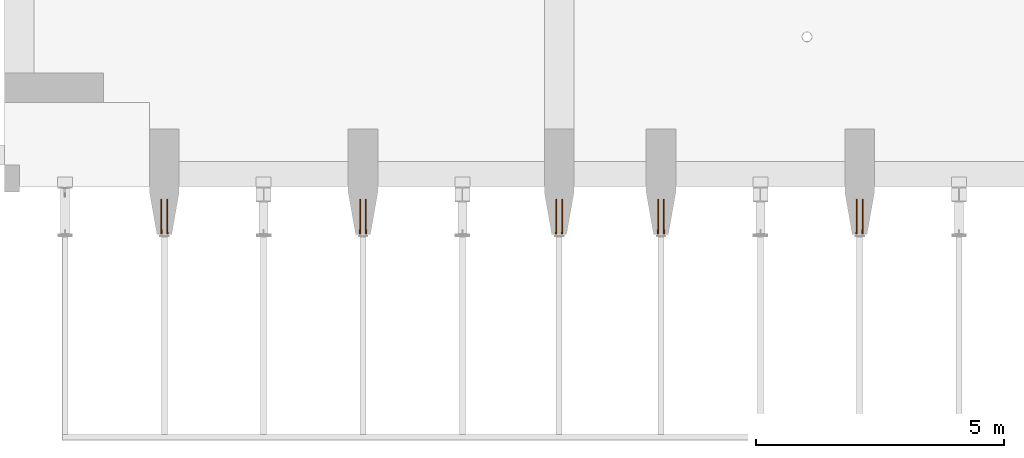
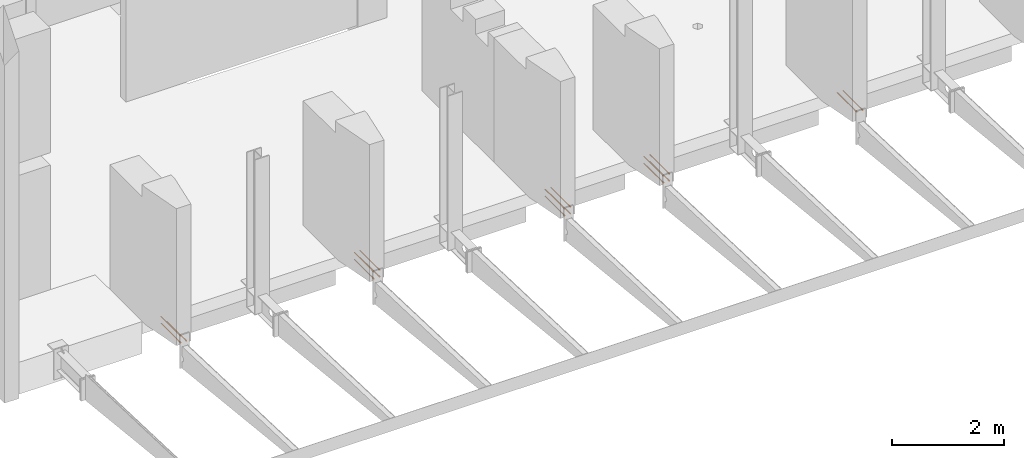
# One storey, part 26 of 27: 17 proxies.
"""IFC2X3 building model written with IfcOpenShell, lengths in millimetres."""

from ifc_helpers import new_model, entity, si_unit, converted_unit, derived_unit, direction, frame, frame_2d, origin, place, context, subcontext, project, spatial, circle, extrude, faceted_brep, source, transform, mapped, type_object, type_shapes, element, save


model = new_model("IFC2X3")

# Units and contexts
model_context = context("Model", 3, precision=0.01, world=origin(), true_north=direction((6.12303176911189e-17, 1.0)))
body_context = subcontext(model_context, "Body", "Model", "MODEL_VIEW")
ifc_project = project(units=[si_unit("LENGTHUNIT", "METRE", prefix="MILLI"), si_unit("AREAUNIT", "SQUARE_METRE"), si_unit("VOLUMEUNIT", "CUBIC_METRE"), converted_unit("PLANEANGLEUNIT", "DEGREE", entity("IfcRatioMeasure", 0.0174532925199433), si_unit("PLANEANGLEUNIT", "RADIAN"), dimensions=[0, 0, 0, 0, 0, 0, 0]), si_unit("MASSUNIT", "GRAM", prefix="KILO"), derived_unit("MASSDENSITYUNIT", [(si_unit("MASSUNIT", "GRAM", prefix="KILO"), 1), (si_unit("LENGTHUNIT", "METRE"), -3)]), si_unit("TIMEUNIT", "SECOND"), si_unit("FREQUENCYUNIT", "HERTZ"), si_unit("THERMODYNAMICTEMPERATUREUNIT", "DEGREE_CELSIUS"), derived_unit("THERMALTRANSMITTANCEUNIT", [(si_unit("MASSUNIT", "GRAM", prefix="KILO"), 1), (si_unit("THERMODYNAMICTEMPERATUREUNIT", "KELVIN"), -1), (si_unit("TIMEUNIT", "SECOND"), -3)]), derived_unit("VOLUMETRICFLOWRATEUNIT", [(si_unit("LENGTHUNIT", "METRE"), 3), (si_unit("TIMEUNIT", "SECOND"), -1)]), si_unit("ELECTRICCURRENTUNIT", "AMPERE"), si_unit("ELECTRICVOLTAGEUNIT", "VOLT"), si_unit("POWERUNIT", "WATT"), si_unit("FORCEUNIT", "NEWTON", prefix="KILO"), si_unit("ILLUMINANCEUNIT", "LUX"), si_unit("LUMINOUSFLUXUNIT", "LUMEN"), si_unit("LUMINOUSINTENSITYUNIT", "CANDELA"), derived_unit("USERDEFINED", [(si_unit("MASSUNIT", "GRAM", prefix="KILO"), -1), (si_unit("LENGTHUNIT", "METRE"), -2), (si_unit("TIMEUNIT", "SECOND"), 3), (si_unit("LUMINOUSFLUXUNIT", "LUMEN"), 1)]), derived_unit("LINEARVELOCITYUNIT", [(si_unit("LENGTHUNIT", "METRE"), 1), (si_unit("TIMEUNIT", "SECOND"), -1)]), si_unit("PRESSUREUNIT", "PASCAL"), derived_unit("USERDEFINED", [(si_unit("LENGTHUNIT", "METRE"), -2), (si_unit("MASSUNIT", "GRAM", prefix="KILO"), 1), (si_unit("TIMEUNIT", "SECOND"), -2)])], contexts=[model_context])

# Site, building, storey
site_placement = place(None, origin())
site = spatial("IfcSite", under=ifc_project, at=site_placement, Name="Default", CompositionType="ELEMENT")
building_placement = place(site_placement, origin())
building = spatial("IfcBuilding", under=site, at=building_placement, Name="niet gebruiken", CompositionType="ELEMENT")
storey_placement = place(building_placement, frame((0.0, 0.0, 6000.0)))
storey = spatial("IfcBuildingStorey", under=building, at=storey_placement, Name="01 eerste verdieping", CompositionType="ELEMENT", Elevation=6000.0)

# Proxies
building_element_proxy_type_1 = type_object("IfcBuildingElementProxyType", Name="Ø20/M24x705", PredefinedType="NOTDEFINED")
shared_shape_1 = source(origin(), body_context, "Body", "SolidModel", [
    extrude(circle(Radius=10.0, at=frame_2d((0.0, -1.61554457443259e-14), x_axis=(1.0, 0.0))), frame((34.9769027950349, 0.0, -705.0)), (0.0, 0.0, 1.0), 615.0),
    extrude(circle(Radius=10.0, at=frame_2d((0.0, -1.61554457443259e-14), x_axis=(1.0, 0.0))), frame((34.9769027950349, 0.0, -705.0)), (0.0, 0.0, 1.0), 615.0),
    faceted_brep([(29.3200485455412, 13.6568542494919, 0.0), (32.1484756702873, 14.8284271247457, 0.0), (34.9769027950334, 16.0, 0.0), (34.9769027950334, 16.0, -38.0), (32.1484756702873, 14.8284271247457, -38.0), (29.3200485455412, 13.6568542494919, -38.0), (26.4916214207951, 12.4852813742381, -38.0), (23.663194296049, 11.3137084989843, -38.0), (23.663194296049, 11.3137084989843, 0.0), (26.4916214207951, 12.4852813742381, 0.0), (49.805329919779, 2.82842712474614, 0.0), (50.9769027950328, 0.0, 0.0), (50.9769027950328, 0.0, -38.0), (50.0199937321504, 2.31018283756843, -38.0), (49.7680552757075, 2.91841607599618, -38.0), (48.6337570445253, 5.65685424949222, -38.0), (48.5592077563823, 5.83683215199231, -38.0), (47.4621841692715, 8.48528137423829, -38.0), (46.2906112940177, 11.3137084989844, -38.0), (46.2906112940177, 11.3137084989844, 0.0), (47.4621841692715, 8.48528137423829, 0.0), (48.6337570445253, 5.65685424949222, 0.0), (21.3200485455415, 5.65685424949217, 0.0), (22.4916214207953, 8.48528137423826, 0.0), (22.4916214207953, 8.48528137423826, -38.0), (22.2769576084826, 7.96703708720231, -38.0), (21.3200485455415, 5.65685424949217, -38.0), (20.8907209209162, 4.62036567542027, -38.0), (20.1484756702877, 2.82842712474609, -38.0), (18.976902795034, 0.0, -38.0), (18.976902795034, 0.0, 0.0), (20.1484756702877, 2.82842712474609, 0.0), (40.6337570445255, 13.6568542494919, 0.0), (43.4621841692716, 12.4852813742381, 0.0), (43.4621841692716, 12.4852813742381, -38.0), (40.6337570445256, 13.6568542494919, -38.0), (37.8053299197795, 14.8284271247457, -38.0), (37.8053299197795, 14.8284271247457, 0.0), (49.063084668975, -4.62036567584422, 0.0), (47.6768479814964, -7.96703708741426, 0.0), (46.2906112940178, -11.3137084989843, 0.0), (46.2906112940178, -11.3137084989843, -38.0), (47.4621841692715, -8.48528137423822, -38.0), (48.6337570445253, -5.65685424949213, -38.0), (49.8053299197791, -2.82842712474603, -38.0), (29.3200485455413, -13.6568542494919, 0.0), (26.4916214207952, -12.4852813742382, 0.0), (23.6631942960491, -11.3137084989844, 0.0), (23.6631942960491, -11.3137084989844, -38.0), (26.4916214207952, -12.4852813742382, -38.0), (29.3200485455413, -13.6568542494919, -38.0), (32.1484756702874, -14.8284271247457, -38.0), (34.9769027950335, -16.0, -38.0), (34.9769027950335, -16.0, 0.0), (32.1484756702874, -14.8284271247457, 0.0), (37.8053299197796, -14.8284271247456, -38.0), (40.6337570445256, -13.6568542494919, -38.0), (43.4621841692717, -12.4852813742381, -38.0), (43.4621841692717, -12.4852813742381, 0.0), (40.6337570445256, -13.6568542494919, 0.0), (37.8053299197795, -14.8284271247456, 0.0), (22.4916214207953, -8.48528137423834, 0.0), (21.3200485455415, -5.65685424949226, 0.0), (20.1484756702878, -2.82842712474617, 0.0), (19.9338118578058, -2.31018283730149, -38.0), (20.1857498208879, -2.91841488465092, -38.0), (21.3200485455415, -5.65685424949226, -38.0), (22.4916214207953, -8.48528137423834, -38.0), (25.7845146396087, 9.19238815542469, -52.0), (24.8628969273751, 6.96740617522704, -52.0), (23.9412792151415, 4.7424241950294, -52.0), (22.9590910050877, 2.3712120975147, -52.0), (21.976902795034, 0.0, -52.0), (44.1692909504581, 9.19238815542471, -52.0), (47.9769027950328, 0.0, -52.0), (46.994714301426, 2.37121278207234, -52.0), (46.0730968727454, 4.59619407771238, -52.0), (45.1211939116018, 6.89429111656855, -52.0), (34.9769027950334, 13.0, -52.0), (32.6788057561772, 12.0480970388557, -52.0), (30.380708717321, 11.096194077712, -52.0), (28.0826116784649, 10.1442911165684, -52.0), (37.2749998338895, 12.0480970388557, -52.0), (41.8711939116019, 10.1442911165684, -52.0), (39.5730968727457, 11.0961940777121, -52.0), (44.1692909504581, -9.19238815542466, -52.0), (45.0909086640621, -6.96740617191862, -52.0), (45.3722781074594, -6.28812024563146, -52.0), (46.0125263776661, -4.74242418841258, -52.0), (46.5752652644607, -3.38385233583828, -52.0), (46.9947145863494, -2.37121209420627, -52.0), (28.0826116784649, -10.1442911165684, -52.0), (30.3807087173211, -11.0961940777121, -52.0), (32.6788057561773, -12.0480970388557, -52.0), (34.9769027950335, -13.0, -52.0), (25.7845146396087, -9.19238815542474, -52.0), (37.2749998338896, -12.0480970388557, -52.0), (39.5730968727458, -11.096194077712, -52.0), (41.871193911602, -10.1442911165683, -52.0), (22.9288057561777, -2.29809703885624, -52.0), (23.8807087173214, -4.59619407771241, -52.0), (24.8326116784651, -6.89429111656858, -52.0), (32.6788057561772, 12.0480970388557, -90.0), (30.380708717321, 11.096194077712, -90.0), (28.0826116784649, 10.1442911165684, -90.0), (25.7845146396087, 9.19238815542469, -90.0), (34.9769027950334, 13.0, -90.0), (47.9769027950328, 0.0, -90.0), (47.2760840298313, 1.691926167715, -90.0), (46.0730968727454, 4.59619407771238, -90.0), (45.1211939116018, 6.89429111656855, -90.0), (44.1692909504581, 9.19238815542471, -90.0), (23.3785403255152, 3.38385233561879, -90.0), (21.976902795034, 0.0, -90.0), (24.5815274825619, 6.28812024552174, -90.0), (41.8711939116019, 10.1442911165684, -90.0), (39.5730968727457, 11.0961940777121, -90.0), (37.2749998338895, 12.0480970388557, -90.0), (46.0730968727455, -4.5961940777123, -90.0), (47.0249998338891, -2.29809703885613, -90.0), (44.1692909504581, -9.19238815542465, -90.0), (45.1211939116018, -6.89429111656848, -90.0), (25.7845146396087, -9.19238815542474, -90.0), (28.0826116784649, -10.1442911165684, -90.0), (30.3807087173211, -11.0961940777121, -90.0), (32.6788057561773, -12.0480970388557, -90.0), (34.9769027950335, -13.0, -90.0), (37.2749998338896, -12.0480970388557, -90.0), (39.5730968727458, -11.096194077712, -90.0), (41.871193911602, -10.1442911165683, -90.0), (22.6777215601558, -1.6919261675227, -90.0), (23.8807087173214, -4.59619407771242, -90.0), (24.8326116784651, -6.89429111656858, -90.0), (34.9769027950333, 0.0, -90.0), (34.9769027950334, 0.0, -38.0), (47.9769027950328, 0.0, -38.0), (47.2760840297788, 1.69192616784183, -38.0), (46.0730968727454, 4.59619407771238, -38.0), (45.1211939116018, 6.89429111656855, -38.0), (44.1692909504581, 9.19238815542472, -38.0), (41.8711939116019, 10.1442911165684, -38.0), (39.5730968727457, 11.0961940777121, -38.0), (37.2749998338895, 12.0480970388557, -38.0), (34.9769027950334, 13.0, -38.0), (32.6788057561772, 12.0480970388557, -38.0), (30.380708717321, 11.096194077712, -38.0), (28.0826116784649, 10.1442911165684, -38.0), (25.7845146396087, 9.19238815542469, -38.0), (24.5815274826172, 6.28812024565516, -38.0), (23.3785403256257, 3.38385233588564, -38.0), (21.976902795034, 0.0, -38.0), (22.6777215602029, -1.69192616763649, -38.0), (47.0249998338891, -2.29809703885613, -38.0), (46.0730968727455, -4.59619407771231, -38.0), (45.1211939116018, -6.89429111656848, -38.0), (44.1692909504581, -9.19238815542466, -38.0), (41.871193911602, -10.1442911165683, -38.0), (39.5730968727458, -11.096194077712, -38.0), (37.2749998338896, -12.0480970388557, -38.0), (34.9769027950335, -13.0, -38.0), (23.8807087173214, -4.59619407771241, -38.0), (24.8326116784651, -6.89429111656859, -38.0), (25.7845146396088, -9.19238815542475, -38.0), (28.0826116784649, -10.1442911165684, -38.0), (30.3807087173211, -11.0961940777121, -38.0), (32.6788057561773, -12.0480970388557, -38.0), (32.6788057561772, 12.0480970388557, 0.0), (30.380708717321, 11.096194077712, 0.0), (28.0826116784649, 10.1442911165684, 0.0), (25.7845146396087, 9.19238815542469, 0.0), (34.9769027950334, 13.0, 0.0), (47.9769027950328, 0.0, 0.0), (47.0249998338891, 2.29809703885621, 0.0), (46.0730968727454, 4.59619407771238, 0.0), (45.1211939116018, 6.89429111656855, 0.0), (44.1692909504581, 9.19238815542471, 0.0), (24.832611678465, 6.89429111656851, 0.0), (23.8807087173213, 4.59619407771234, 0.0), (22.9288057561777, 2.29809703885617, 0.0), (21.976902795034, 0.0, 0.0), (37.2749998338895, 12.0480970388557, 0.0), (41.8711939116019, 10.1442911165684, 0.0), (39.5730968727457, 11.0961940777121, 0.0), (44.1692909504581, -9.19238815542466, 0.0), (45.3722781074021, -6.28812024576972, 0.0), (46.5752652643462, -3.38385233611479, 0.0), (32.6788057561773, -12.0480970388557, 0.0), (34.9769027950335, -13.0, 0.0), (25.7845146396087, -9.19238815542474, 0.0), (28.0826116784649, -10.1442911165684, 0.0), (30.3807087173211, -11.0961940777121, 0.0), (37.2749998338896, -12.0480970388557, 0.0), (39.5730968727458, -11.096194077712, 0.0), (41.871193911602, -10.1442911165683, 0.0), (22.9288057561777, -2.29809703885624, 0.0), (23.8807087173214, -4.59619407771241, 0.0), (24.8326116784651, -6.89429111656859, 0.0)], [[[0, 1, 2, 3, 4, 5, 6, 7, 8, 9]], [[10, 11, 12, 13, 14, 15, 16, 17, 18, 19, 20, 21]], [[22, 23, 8, 7, 24, 25, 26, 27, 28, 29, 30, 31]], [[32, 33, 19, 18, 34, 35, 36, 3, 2, 37]], [[38, 39, 40, 41, 42, 43, 44, 12, 11]], [[45, 46, 47, 48, 49, 50, 51, 52, 53, 54]], [[53, 52, 55, 56, 57, 41, 40, 58, 59, 60]], [[48, 47, 61, 62, 63, 30, 29, 64, 65, 66, 67]], [[7, 68, 69, 70, 71, 72, 29, 28, 27, 26, 25, 24]], [[73, 18, 17, 16, 15, 14, 13, 12, 74, 75, 76, 77]], [[4, 3, 78, 79, 80, 81, 68, 7, 6, 5]], [[82, 78, 3, 36, 35, 34, 18, 73, 83, 84]], [[41, 85, 86, 87, 88, 89, 90, 74, 12, 44, 43, 42]], [[91, 92, 93, 94, 52, 51, 50, 49, 48, 95]], [[55, 52, 94, 96, 97, 98, 85, 41, 57, 56]], [[99, 100, 101, 95, 48, 67, 66, 65, 64, 29, 72]], [[102, 103, 104, 105, 68, 81, 80, 79, 78, 106]], [[75, 74, 107, 108, 109, 110, 111, 73, 77, 76]], [[112, 113, 72, 71, 70, 69, 68, 105, 114]], [[84, 83, 73, 111, 115, 116, 117, 106, 78, 82]], [[118, 119, 107, 74, 90, 89, 88, 87, 86, 85, 120, 121]], [[92, 91, 95, 122, 123, 124, 125, 126, 94, 93]], [[94, 126, 127, 128, 129, 120, 85, 98, 97, 96]], [[122, 95, 101, 100, 99, 72, 113, 130, 131, 132]], [[133, 111, 110]], [[133, 110, 109]], [[133, 109, 108]], [[133, 108, 107]], [[133, 107, 119]], [[133, 115, 111]], [[133, 116, 115]], [[133, 117, 116]], [[133, 106, 117]], [[133, 102, 106]], [[133, 103, 102]], [[133, 104, 103]], [[133, 105, 104]], [[133, 114, 105]], [[133, 112, 114]], [[133, 113, 112]], [[133, 119, 118]], [[133, 118, 121]], [[133, 121, 120]], [[133, 120, 129]], [[133, 129, 128]], [[133, 128, 127]], [[133, 127, 126]], [[133, 126, 125]], [[133, 130, 113]], [[133, 131, 130]], [[133, 132, 131]], [[133, 122, 132]], [[133, 125, 124]], [[133, 124, 123]], [[133, 123, 122]], [[134, 135, 136]], [[134, 136, 137]], [[134, 137, 138]], [[134, 138, 139]], [[134, 139, 140]], [[134, 140, 141]], [[134, 141, 142]], [[134, 142, 143]], [[134, 143, 144]], [[134, 144, 145]], [[134, 145, 146]], [[134, 146, 147]], [[134, 147, 148]], [[134, 148, 149]], [[134, 149, 150]], [[134, 150, 151]], [[134, 152, 135]], [[134, 153, 152]], [[134, 154, 153]], [[134, 155, 154]], [[134, 156, 155]], [[134, 157, 156]], [[134, 158, 157]], [[134, 159, 158]], [[134, 151, 160]], [[134, 160, 161]], [[134, 161, 162]], [[134, 162, 163]], [[134, 163, 164]], [[134, 164, 165]], [[134, 165, 159]], [[166, 167, 168, 169, 147, 146, 145, 144, 143, 170]], [[136, 135, 171, 172, 173, 174, 175, 139, 138, 137]], [[148, 147, 169, 176, 177, 178, 179, 150, 149]], [[180, 170, 143, 142, 141, 140, 139, 175, 181, 182]], [[153, 154, 155, 183, 184, 185, 171, 135, 152]], [[186, 187, 159, 165, 164, 163, 162, 188, 189, 190]], [[158, 159, 187, 191, 192, 193, 183, 155, 156, 157]], [[161, 160, 151, 150, 179, 194, 195, 196, 188, 162]], [[171, 11, 10]], [[171, 10, 21]], [[171, 21, 20]], [[171, 20, 19]], [[19, 172, 171]], [[171, 38, 11]], [[171, 39, 38]], [[171, 40, 39]], [[40, 171, 185]], [[40, 185, 184]], [[40, 184, 183]], [[183, 58, 40]], [[183, 59, 58]], [[183, 60, 59]], [[183, 53, 60]], [[53, 183, 193]], [[53, 193, 192]], [[53, 192, 191]], [[53, 191, 187]], [[53, 187, 186]], [[53, 186, 190]], [[53, 190, 189]], [[53, 189, 188]], [[188, 54, 53]], [[188, 45, 54]], [[188, 46, 45]], [[188, 47, 46]], [[47, 188, 196]], [[47, 196, 195]], [[47, 195, 194]], [[47, 194, 179]], [[179, 61, 47]], [[179, 62, 61]], [[179, 63, 62]], [[179, 30, 63]], [[179, 31, 30]], [[179, 22, 31]], [[179, 23, 22]], [[179, 8, 23]], [[8, 179, 178]], [[8, 178, 177]], [[8, 177, 176]], [[8, 176, 169]], [[169, 9, 8]], [[169, 0, 9]], [[169, 1, 0]], [[169, 2, 1]], [[2, 169, 168]], [[2, 168, 167]], [[2, 167, 166]], [[2, 166, 170]], [[2, 170, 180]], [[2, 180, 182]], [[2, 182, 181]], [[2, 181, 175]], [[175, 19, 33]], [[19, 175, 174]], [[175, 33, 32]], [[175, 32, 37]], [[175, 37, 2]], [[19, 174, 173]], [[19, 173, 172]]]),
])
type_shapes(building_element_proxy_type_1, [shared_shape_1])
for number, where, z_axis, x_axis in (
    (1, (141775.023097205, 150.0, 95.0), (0.0, -1.0, 0.0), (1.0, 0.0, 0.0)),
    (2, (137775.023097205, 150.0, 95.0), (0.0, -1.0, 0.0), (1.0, 0.0, 0.0)),
    (3, (137775.023097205, 150.0, -55.0), (0.0, -1.0, 0.0), (1.0, 0.0, 0.0)),
    (4, (135725.023097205, 150.0, 95.0), (0.0, -1.0, 0.0), (1.0, 0.0, 0.0)),
    (5, (135725.023097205, 150.0, -55.0), (0.0, -1.0, 0.0), (1.0, 0.0, 0.0)),
    (6, (131775.023097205, 150.0, 95.0), (0.0, -1.0, 0.0), (1.0, 0.0, 0.0)),
    (7, (131775.023097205, 150.0, -55.0), (0.0, -1.0, 0.0), (1.0, 0.0, 0.0)),
    (8, (127775.023097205, 150.0, -55.0), (0.0, -1.0, 0.0), (1.0, 0.0, 0.0)),
):
    element("IfcBuildingElementProxy", number, at=place(storey_placement, frame(where, z_axis=z_axis, x_axis=x_axis)), inside=storey, type_object=building_element_proxy_type_1, Name="GM_Stekanker_DEMU_4010 GV:Ø20/M24x705", ObjectType="Ø20/M24x705", context=body_context, shape_type="MappedRepresentation", body=[
        mapped(shared_shape_1, transform((0.0, 0.0, 0.0), scale=1.0)),
    ])
building_element_proxy_type_2 = type_object("IfcBuildingElementProxyType", Name="Ø20/M24x705", PredefinedType="NOTDEFINED")
shared_shape_2 = source(origin(), body_context, "Body", "SolidModel", [
    extrude(circle(Radius=10.0, at=frame_2d((0.0, -4.50212443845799e-14), x_axis=(1.0, 0.0))), frame((34.9769027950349, 0.0, -705.0)), (0.0, 0.0, 1.0), 615.0),
    extrude(circle(Radius=10.0, at=frame_2d((0.0, -4.50212443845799e-14), x_axis=(1.0, 0.0))), frame((34.9769027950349, 0.0, -705.0)), (0.0, 0.0, 1.0), 615.0),
    faceted_brep([(26.4916214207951, -12.4852813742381, 0.0), (23.663194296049, -11.3137084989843, 0.0), (23.663194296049, -11.3137084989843, -38.0), (26.4916214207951, -12.4852813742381, -38.0), (29.3200485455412, -13.6568542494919, -38.0), (32.1484756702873, -14.8284271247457, -38.0), (34.9769027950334, -16.0, -38.0), (34.9769027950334, -16.0, 0.0), (32.1484756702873, -14.8284271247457, 0.0), (29.3200485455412, -13.6568542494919, 0.0), (50.0199937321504, -2.31018283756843, -38.0), (50.9769027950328, 0.0, -38.0), (50.9769027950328, 0.0, 0.0), (49.805329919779, -2.82842712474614, 0.0), (48.6337570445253, -5.65685424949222, 0.0), (47.4621841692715, -8.48528137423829, 0.0), (46.2906112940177, -11.3137084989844, 0.0), (46.2906112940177, -11.3137084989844, -38.0), (47.4621841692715, -8.48528137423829, -38.0), (48.5592077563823, -5.83683215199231, -38.0), (48.6337570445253, -5.65685424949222, -38.0), (49.7680552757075, -2.91841607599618, -38.0), (21.3200485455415, -5.65685424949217, 0.0), (20.1484756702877, -2.82842712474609, 0.0), (18.976902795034, 0.0, 0.0), (18.976902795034, 0.0, -38.0), (20.1484756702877, -2.82842712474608, -38.0), (20.8907209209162, -4.62036567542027, -38.0), (21.3200485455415, -5.65685424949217, -38.0), (22.2769576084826, -7.9670370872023, -38.0), (22.4916214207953, -8.48528137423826, -38.0), (22.4916214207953, -8.48528137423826, 0.0), (37.8053299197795, -14.8284271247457, 0.0), (37.8053299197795, -14.8284271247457, -38.0), (40.6337570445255, -13.6568542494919, -38.0), (43.4621841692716, -12.4852813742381, -38.0), (43.4621841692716, -12.4852813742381, 0.0), (40.6337570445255, -13.6568542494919, 0.0), (48.6337570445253, 5.65685424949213, -38.0), (47.4621841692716, 8.48528137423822, -38.0), (46.2906112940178, 11.3137084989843, -38.0), (46.2906112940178, 11.3137084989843, 0.0), (47.6768479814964, 7.96703708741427, 0.0), (49.063084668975, 4.62036567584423, 0.0), (49.8053299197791, 2.82842712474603, -38.0), (32.1484756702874, 14.8284271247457, 0.0), (34.9769027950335, 16.0, 0.0), (34.9769027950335, 16.0, -38.0), (32.1484756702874, 14.8284271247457, -38.0), (29.3200485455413, 13.6568542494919, -38.0), (26.4916214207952, 12.4852813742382, -38.0), (23.6631942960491, 11.3137084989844, -38.0), (23.6631942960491, 11.3137084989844, 0.0), (26.4916214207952, 12.4852813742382, 0.0), (29.3200485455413, 13.6568542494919, 0.0), (37.8053299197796, 14.8284271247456, -38.0), (37.8053299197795, 14.8284271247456, 0.0), (40.6337570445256, 13.6568542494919, 0.0), (43.4621841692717, 12.4852813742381, 0.0), (43.4621841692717, 12.4852813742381, -38.0), (40.6337570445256, 13.6568542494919, -38.0), (22.4916214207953, 8.48528137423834, -38.0), (21.3200485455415, 5.65685424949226, -38.0), (20.1857498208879, 2.91841488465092, -38.0), (19.9338118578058, 2.31018283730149, -38.0), (20.1484756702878, 2.82842712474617, 0.0), (21.3200485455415, 5.65685424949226, 0.0), (22.4916214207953, 8.48528137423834, 0.0), (24.8628969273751, -6.96740617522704, -52.0), (25.7845146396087, -9.19238815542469, -52.0), (21.976902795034, 0.0, -52.0), (22.9590910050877, -2.3712120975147, -52.0), (23.9412792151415, -4.7424241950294, -52.0), (45.1211939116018, -6.89429111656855, -52.0), (46.0730968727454, -4.59619407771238, -52.0), (46.994714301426, -2.37121278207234, -52.0), (47.9769027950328, 0.0, -52.0), (44.1692909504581, -9.19238815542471, -52.0), (34.9769027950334, -13.0, -52.0), (28.0826116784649, -10.1442911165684, -52.0), (30.380708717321, -11.096194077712, -52.0), (32.6788057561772, -12.0480970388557, -52.0), (37.2749998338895, -12.0480970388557, -52.0), (39.5730968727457, -11.0961940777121, -52.0), (41.8711939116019, -10.1442911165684, -52.0), (45.0909086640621, 6.96740617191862, -52.0), (44.1692909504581, 9.19238815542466, -52.0), (46.9947145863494, 2.37121209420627, -52.0), (46.5752652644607, 3.38385233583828, -52.0), (46.0125263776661, 4.74242418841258, -52.0), (45.3722781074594, 6.28812024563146, -52.0), (34.9769027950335, 13.0, -52.0), (32.6788057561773, 12.0480970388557, -52.0), (30.3807087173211, 11.0961940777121, -52.0), (28.0826116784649, 10.1442911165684, -52.0), (25.7845146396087, 9.19238815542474, -52.0), (41.871193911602, 10.1442911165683, -52.0), (39.5730968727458, 11.096194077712, -52.0), (37.2749998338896, 12.0480970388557, -52.0), (22.9288057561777, 2.29809703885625, -52.0), (24.8326116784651, 6.89429111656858, -52.0), (23.8807087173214, 4.59619407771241, -52.0), (25.7845146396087, -9.19238815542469, -90.0), (28.0826116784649, -10.1442911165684, -90.0), (30.380708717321, -11.096194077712, -90.0), (32.6788057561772, -12.0480970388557, -90.0), (34.9769027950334, -13.0, -90.0), (47.2760840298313, -1.691926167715, -90.0), (47.9769027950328, 0.0, -90.0), (44.1692909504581, -9.19238815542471, -90.0), (45.1211939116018, -6.89429111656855, -90.0), (46.0730968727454, -4.59619407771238, -90.0), (24.5815274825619, -6.28812024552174, -90.0), (21.976902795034, 0.0, -90.0), (23.3785403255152, -3.38385233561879, -90.0), (37.2749998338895, -12.0480970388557, -90.0), (39.5730968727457, -11.0961940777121, -90.0), (41.8711939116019, -10.1442911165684, -90.0), (46.0730968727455, 4.5961940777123, -90.0), (45.1211939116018, 6.89429111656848, -90.0), (44.1692909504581, 9.19238815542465, -90.0), (47.0249998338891, 2.29809703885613, -90.0), (34.9769027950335, 13.0, -90.0), (32.6788057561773, 12.0480970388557, -90.0), (30.3807087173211, 11.0961940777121, -90.0), (28.0826116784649, 10.1442911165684, -90.0), (25.7845146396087, 9.19238815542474, -90.0), (37.2749998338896, 12.0480970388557, -90.0), (41.871193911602, 10.1442911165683, -90.0), (39.5730968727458, 11.096194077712, -90.0), (24.8326116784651, 6.89429111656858, -90.0), (23.8807087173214, 4.59619407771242, -90.0), (22.6777215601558, 1.6919261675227, -90.0), (34.9769027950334, 0.0, -90.0), (34.9769027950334, 0.0, -38.0), (44.1692909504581, -9.19238815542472, -38.0), (45.1211939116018, -6.89429111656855, -38.0), (46.0730968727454, -4.59619407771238, -38.0), (47.2760840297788, -1.69192616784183, -38.0), (47.9769027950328, 0.0, -38.0), (47.0249998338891, 2.29809703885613, -38.0), (41.8711939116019, -10.1442911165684, -38.0), (39.5730968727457, -11.0961940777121, -38.0), (37.2749998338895, -12.0480970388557, -38.0), (34.9769027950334, -13.0, -38.0), (32.6788057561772, -12.0480970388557, -38.0), (30.380708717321, -11.096194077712, -38.0), (28.0826116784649, -10.1442911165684, -38.0), (25.7845146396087, -9.19238815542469, -38.0), (24.5815274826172, -6.28812024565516, -38.0), (23.3785403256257, -3.38385233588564, -38.0), (21.976902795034, 0.0, -38.0), (46.0730968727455, 4.59619407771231, -38.0), (45.1211939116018, 6.89429111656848, -38.0), (44.1692909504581, 9.19238815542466, -38.0), (41.871193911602, 10.1442911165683, -38.0), (39.5730968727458, 11.096194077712, -38.0), (37.2749998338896, 12.0480970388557, -38.0), (34.9769027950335, 13.0, -38.0), (32.6788057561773, 12.0480970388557, -38.0), (22.6777215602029, 1.69192616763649, -38.0), (23.8807087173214, 4.59619407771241, -38.0), (24.8326116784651, 6.89429111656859, -38.0), (25.7845146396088, 9.19238815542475, -38.0), (30.3807087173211, 11.0961940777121, -38.0), (28.0826116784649, 10.1442911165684, -38.0), (25.7845146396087, -9.19238815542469, 0.0), (28.0826116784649, -10.1442911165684, 0.0), (30.380708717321, -11.096194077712, 0.0), (32.6788057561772, -12.0480970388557, 0.0), (34.9769027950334, -13.0, 0.0), (47.0249998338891, -2.29809703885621, 0.0), (47.9769027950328, 0.0, 0.0), (44.1692909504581, -9.19238815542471, 0.0), (45.1211939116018, -6.89429111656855, 0.0), (46.0730968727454, -4.59619407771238, 0.0), (21.976902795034, 0.0, 0.0), (22.9288057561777, -2.29809703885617, 0.0), (23.8807087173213, -4.59619407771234, 0.0), (24.832611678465, -6.89429111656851, 0.0), (39.5730968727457, -11.0961940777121, 0.0), (41.8711939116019, -10.1442911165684, 0.0), (37.2749998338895, -12.0480970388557, 0.0), (46.5752652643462, 3.38385233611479, 0.0), (45.3722781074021, 6.28812024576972, 0.0), (44.1692909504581, 9.19238815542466, 0.0), (30.3807087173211, 11.0961940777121, 0.0), (28.0826116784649, 10.1442911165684, 0.0), (25.7845146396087, 9.19238815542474, 0.0), (34.9769027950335, 13.0, 0.0), (32.6788057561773, 12.0480970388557, 0.0), (41.871193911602, 10.1442911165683, 0.0), (39.5730968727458, 11.096194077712, 0.0), (37.2749998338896, 12.0480970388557, 0.0), (24.8326116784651, 6.89429111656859, 0.0), (23.8807087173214, 4.59619407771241, 0.0), (22.9288057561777, 2.29809703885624, 0.0)], [[[0, 1, 2, 3, 4, 5, 6, 7, 8, 9]], [[10, 11, 12, 13, 14, 15, 16, 17, 18, 19, 20, 21]], [[22, 23, 24, 25, 26, 27, 28, 29, 30, 2, 1, 31]], [[32, 7, 6, 33, 34, 35, 17, 16, 36, 37]], [[38, 39, 40, 41, 42, 43, 12, 11, 44]], [[45, 46, 47, 48, 49, 50, 51, 52, 53, 54]], [[55, 47, 46, 56, 57, 58, 41, 40, 59, 60]], [[61, 62, 63, 64, 25, 24, 65, 66, 67, 52, 51]], [[68, 69, 2, 30, 29, 28, 27, 26, 25, 70, 71, 72]], [[73, 74, 75, 76, 11, 10, 21, 20, 19, 18, 17, 77]], [[78, 6, 5, 4, 3, 2, 69, 79, 80, 81]], [[33, 6, 78, 82, 83, 84, 77, 17, 35, 34]], [[85, 86, 40, 39, 38, 44, 11, 76, 87, 88, 89, 90]], [[49, 48, 47, 91, 92, 93, 94, 95, 51, 50]], [[91, 47, 55, 60, 59, 40, 86, 96, 97, 98]], [[99, 70, 25, 64, 63, 62, 61, 51, 95, 100, 101]], [[81, 80, 79, 69, 102, 103, 104, 105, 106, 78]], [[107, 108, 76, 75, 74, 73, 77, 109, 110, 111]], [[112, 102, 69, 68, 72, 71, 70, 113, 114]], [[82, 78, 106, 115, 116, 117, 109, 77, 84, 83]], [[118, 119, 120, 86, 85, 90, 89, 88, 87, 76, 108, 121]], [[92, 91, 122, 123, 124, 125, 126, 95, 94, 93]], [[127, 122, 91, 98, 97, 96, 86, 120, 128, 129]], [[130, 131, 132, 113, 70, 99, 101, 100, 95, 126]], [[133, 108, 107]], [[133, 107, 111]], [[133, 111, 110]], [[133, 110, 109]], [[133, 109, 117]], [[133, 117, 116]], [[133, 116, 115]], [[133, 115, 106]], [[133, 106, 105]], [[133, 105, 104]], [[133, 104, 103]], [[133, 103, 102]], [[133, 102, 112]], [[133, 112, 114]], [[133, 114, 113]], [[133, 113, 132]], [[133, 121, 108]], [[133, 118, 121]], [[133, 119, 118]], [[133, 120, 119]], [[133, 128, 120]], [[133, 129, 128]], [[133, 127, 129]], [[133, 122, 127]], [[133, 132, 131]], [[133, 131, 130]], [[133, 130, 126]], [[133, 126, 125]], [[133, 125, 124]], [[133, 124, 123]], [[133, 123, 122]], [[134, 135, 136]], [[134, 136, 137]], [[134, 137, 138]], [[134, 138, 139]], [[134, 139, 140]], [[134, 141, 135]], [[134, 142, 141]], [[134, 143, 142]], [[134, 144, 143]], [[134, 145, 144]], [[134, 146, 145]], [[134, 147, 146]], [[134, 148, 147]], [[134, 149, 148]], [[134, 150, 149]], [[134, 151, 150]], [[134, 140, 152]], [[134, 152, 153]], [[134, 153, 154]], [[134, 154, 155]], [[134, 155, 156]], [[134, 156, 157]], [[134, 157, 158]], [[134, 158, 159]], [[134, 160, 151]], [[134, 161, 160]], [[134, 162, 161]], [[134, 163, 162]], [[134, 159, 164]], [[134, 164, 165]], [[134, 165, 163]], [[145, 146, 147, 148, 166, 167, 168, 169, 170, 144]], [[171, 172, 139, 138, 137, 136, 135, 173, 174, 175]], [[150, 151, 176, 177, 178, 179, 166, 148, 149]], [[180, 181, 173, 135, 141, 142, 143, 144, 170, 182]], [[183, 184, 185, 154, 153, 152, 140, 139, 172]], [[186, 187, 188, 163, 165, 164, 159, 158, 189, 190]], [[189, 158, 157, 156, 155, 154, 185, 191, 192, 193]], [[163, 188, 194, 195, 196, 176, 151, 160, 161, 162]], [[172, 16, 15]], [[16, 172, 171]], [[172, 15, 14]], [[172, 14, 13]], [[172, 13, 12]], [[172, 12, 43]], [[172, 43, 42]], [[172, 42, 41]], [[41, 183, 172]], [[16, 171, 175]], [[16, 175, 174]], [[16, 174, 173]], [[173, 36, 16]], [[173, 37, 36]], [[173, 32, 37]], [[173, 7, 32]], [[7, 173, 181]], [[7, 181, 180]], [[7, 180, 182]], [[7, 182, 170]], [[7, 170, 169]], [[7, 169, 168]], [[7, 168, 167]], [[7, 167, 166]], [[166, 8, 7]], [[166, 9, 8]], [[166, 0, 9]], [[166, 1, 0]], [[1, 166, 179]], [[1, 179, 178]], [[1, 178, 177]], [[1, 177, 176]], [[176, 31, 1]], [[176, 22, 31]], [[176, 23, 22]], [[176, 24, 23]], [[176, 65, 24]], [[176, 66, 65]], [[176, 67, 66]], [[176, 52, 67]], [[52, 176, 196]], [[52, 196, 195]], [[52, 195, 194]], [[52, 194, 188]], [[188, 53, 52]], [[188, 54, 53]], [[188, 45, 54]], [[188, 46, 45]], [[46, 188, 187]], [[46, 187, 186]], [[46, 186, 190]], [[46, 190, 189]], [[46, 189, 193]], [[46, 193, 192]], [[46, 192, 191]], [[46, 191, 185]], [[185, 41, 58]], [[41, 185, 184]], [[185, 58, 57]], [[185, 57, 56]], [[185, 56, 46]], [[41, 184, 183]]]),
])
type_shapes(building_element_proxy_type_2, [shared_shape_2])
for number, where, z_axis, x_axis in (
    (9, (141724.976902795, 150.0, 95.0), (0.0, -1.0, 0.0), (-1.0, 0.0, 0.0)),
    (10, (137724.976902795, 150.0, 95.0), (0.0, -1.0, 0.0), (-1.0, 0.0, 0.0)),
    (11, (137724.976902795, 150.0, -55.0), (0.0, -1.0, 0.0), (-1.0, 0.0, 0.0)),
    (12, (135674.976902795, 150.0, 95.0), (0.0, -1.0, 0.0), (-1.0, 0.0, 0.0)),
    (13, (135674.976902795, 150.0, -55.0), (0.0, -1.0, 0.0), (-1.0, 0.0, 0.0)),
    (14, (131724.976902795, 150.0, 95.0), (0.0, -1.0, 0.0), (-1.0, 0.0, 0.0)),
    (15, (131724.976902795, 150.0, -55.0), (0.0, -1.0, 0.0), (-1.0, 0.0, 0.0)),
    (16, (127724.976902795, 150.0, 95.0), (0.0, -1.0, 0.0), (-1.0, 0.0, 0.0)),
    (17, (127724.976902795, 150.0, -55.0), (0.0, -1.0, 0.0), (-1.0, 0.0, 0.0)),
):
    element("IfcBuildingElementProxy", number, at=place(storey_placement, frame(where, z_axis=z_axis, x_axis=x_axis)), inside=storey, type_object=building_element_proxy_type_2, Name="GM_Stekanker_DEMU_4010 GV:Ø20/M24x705", ObjectType="Ø20/M24x705", context=body_context, shape_type="MappedRepresentation", body=[
        mapped(shared_shape_2, transform((0.0, 0.0, 0.0), scale=1.0)),
    ])

save(model, "model.ifc")
